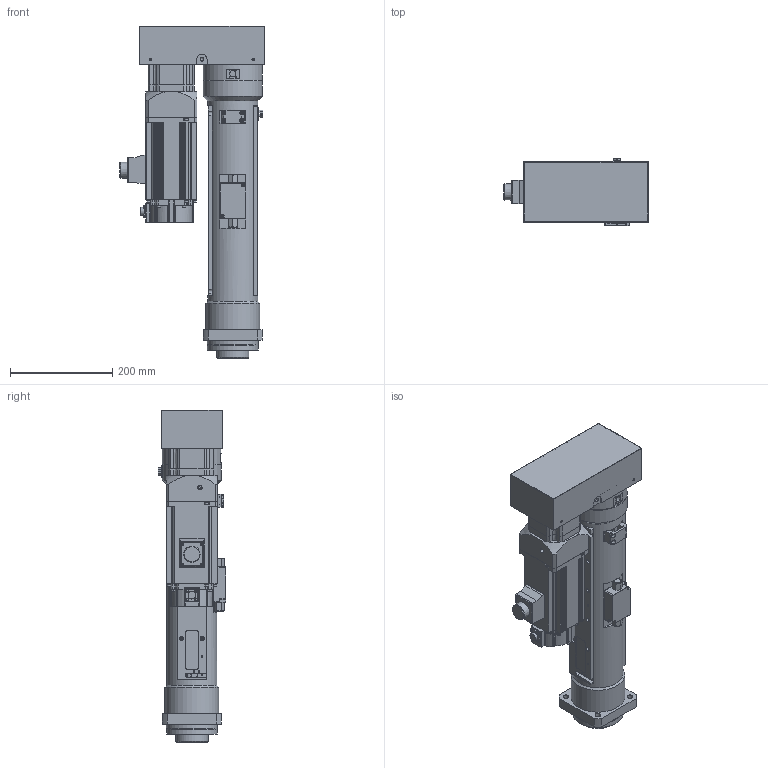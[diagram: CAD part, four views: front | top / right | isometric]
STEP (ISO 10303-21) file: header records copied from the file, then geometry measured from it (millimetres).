
FILE_DESCRIPTION( ('This file contains a STEP AP42 implementation' ,'as created by ZW3D STEP Interface translator.') ,'2;1' );
FILE_NAME( 'OACIS-DC-P020-300-200-A6V200_V20.01.stp' ,'25 716. 81824', (''), ('ZWCAD Software Co.'), 'Version 1.0', 'ZW3D to STEP translator', '' );
FILE_SCHEMA(('AUTOMOTIVE_DESIGN { 1 0 10303 214 1 1 1 1 }'));
Length unit declared in the file: millimetre
Products named in the file (1): 0
Bounding box: 282.6 x 131.5 x 648 mm (x, y, z)
Volume: 6902804.3 mm3; surface area: 1242590.9 mm2
Topology: 31 solids, 51 shells, 2883 faces, 7428 edges, 4835 vertices
Faces by surface type: cylinder 1335, plane 1073, cone 268, bspline 118, torus 73, sphere 16
Full cylindrical faces by diameter (mm): 1.6 x8, 2.459 x1, 2.75 x1, 3.242 x10, 3.3 x114, 4 x8, 4.134 x12, 4.2 x4, 4.3 x30, 4.5 x4, 5 x40, 5.5 x4, 6.5 x4, 6.8 x36, 7 x20, 8 x40, 8.4 x8, 8.5 x25, 9 x4, 11 x4, 12 x1, 14.8 x1, 15 x8, 15.5 x2, 16.5 x1, 18 x4, 18.917 x2, 19 x1, 20 x2, 22 x1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
Entity records: 95000 total; most frequent: CARTESIAN_POINT 20364, DIRECTION 15812, ORIENTED_EDGE 14514, EDGE_CURVE 7298, AXIS2_PLACEMENT_3D 6265, VERTEX_POINT 4760, CIRCLE 3493, EDGE_LOOP 3417
